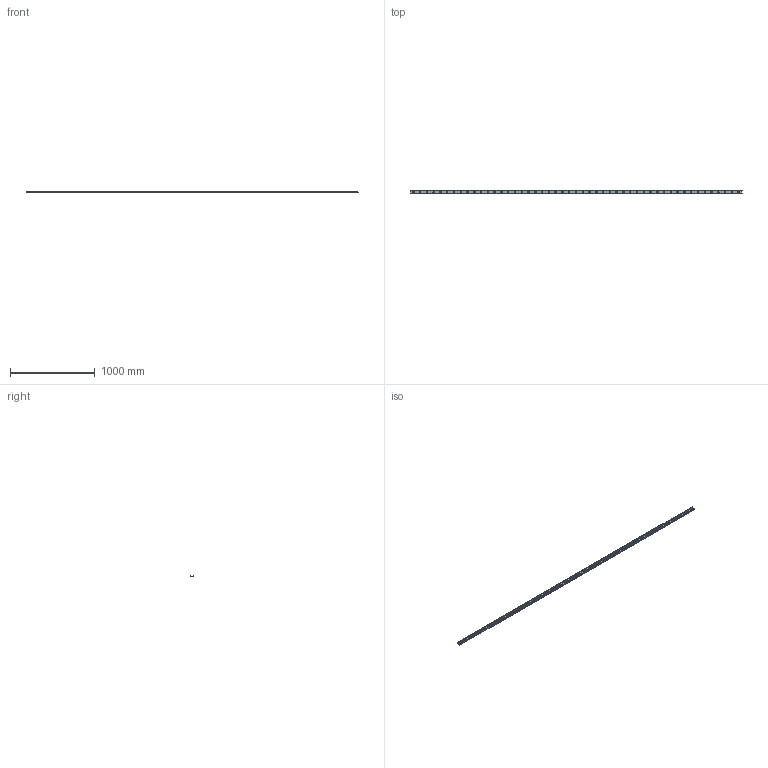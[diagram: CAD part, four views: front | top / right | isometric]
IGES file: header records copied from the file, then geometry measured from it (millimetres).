
Start section: SolidWorks IGES file using analytic representation for surfaces
Global section: file name: C:\Users\IanO\Desktop\43\L1943.ULV43_v2_20180121_IGES\L1943.ULV43-3920.igs; native system: SolidWorks 2017; preprocessor: SolidWorks 2017; author: IanO; date: 190121.090711; units: millimetre
Bounding box: 3920 x 43 x 21 mm (x, y, z)
Surface area: 608012.2 mm2 (no closed solid volume)
Topology: 0 solids, 0 shells, 222 faces, 4214 edges, 4214 vertices
Faces by surface type: revolution 209, bspline 13
